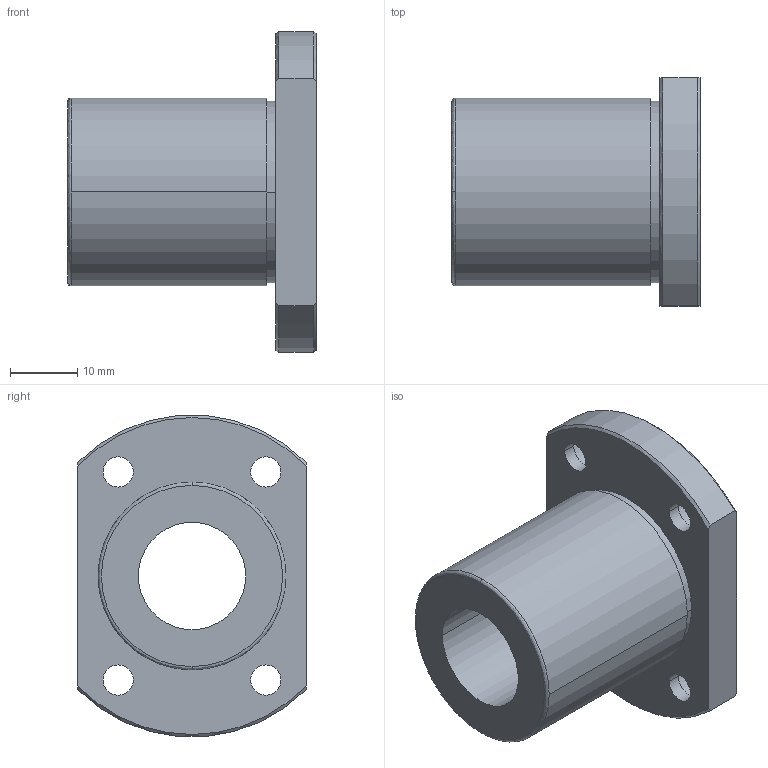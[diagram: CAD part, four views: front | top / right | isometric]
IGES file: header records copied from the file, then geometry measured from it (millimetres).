
Start section: 3D InterOp IGES (Version 21 0 1), Spatial Corp. Copyright (c) 1999-2007.
Global section: file name: NFEO-16VUU.igs; native system: Spatial Corp.; preprocessor: 3D InterOp GENERIC/IGES 3.0; author: Noname; organization: Noname; date: 20220308.102929; units: millimetre
Bounding box: 37 x 34 x 47.82 mm (x, y, z)
Surface area: 8403.5 mm2 (no closed solid volume)
Topology: 0 solids, 0 shells, 40 faces, 194 edges, 194 vertices
Faces by surface type: revolution 30, extrusion 10
